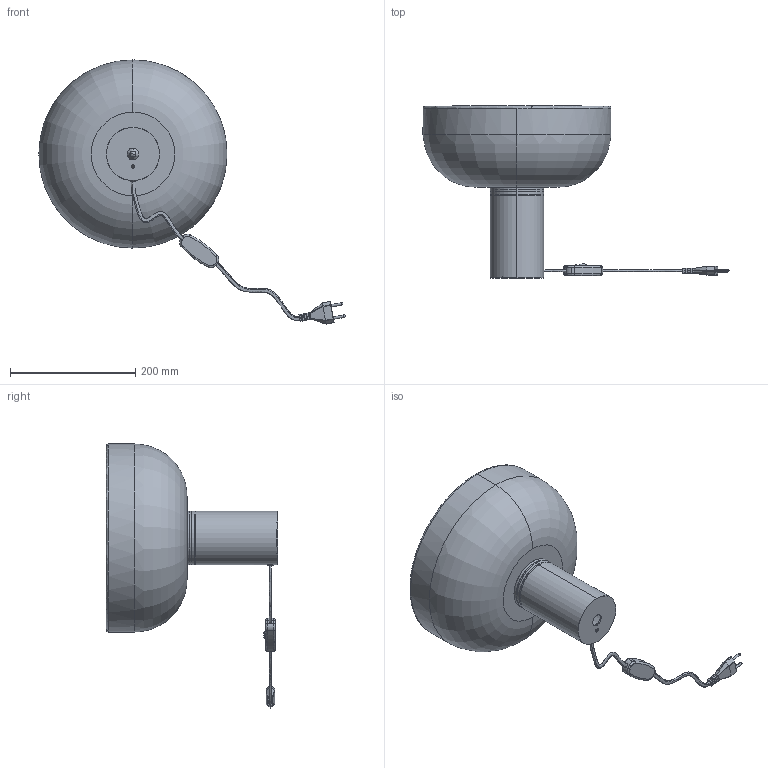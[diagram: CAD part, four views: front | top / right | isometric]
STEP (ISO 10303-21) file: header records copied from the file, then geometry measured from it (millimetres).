
FILE_DESCRIPTION (( 'STEP AP203' ), '1' );
FILE_NAME ('AELLA_mini30-T_baseAlluminio_EU-USA.STEP', '2018-01-17T09:25:54', ( '' ), ( '' ), 'SwSTEP 2.0', 'SolidWorks 2016', '' );
FILE_SCHEMA (( 'CONFIG_CONTROL_DESIGN' ));
Length unit declared in the file: millimetre
Products named in the file (1): AELLA_mini30-T_baseAlluminio_EU-USA
Bounding box: 488.35 x 274.2 x 421.25 mm (x, y, z)
Volume: 802439.7 mm3; surface area: 558416.2 mm2
Topology: 7 solids, 7 shells, 384 faces, 977 edges, 625 vertices
Faces by surface type: plane 132, cylinder 128, bspline 112, cone 8, torus 4
Entity records: 24189 total; most frequent: CARTESIAN_POINT 16061, ORIENTED_EDGE 1934, DIRECTION 1244, EDGE_CURVE 967, VERTEX_POINT 625, EDGE_LOOP 426, LINE 418, VECTOR 418
